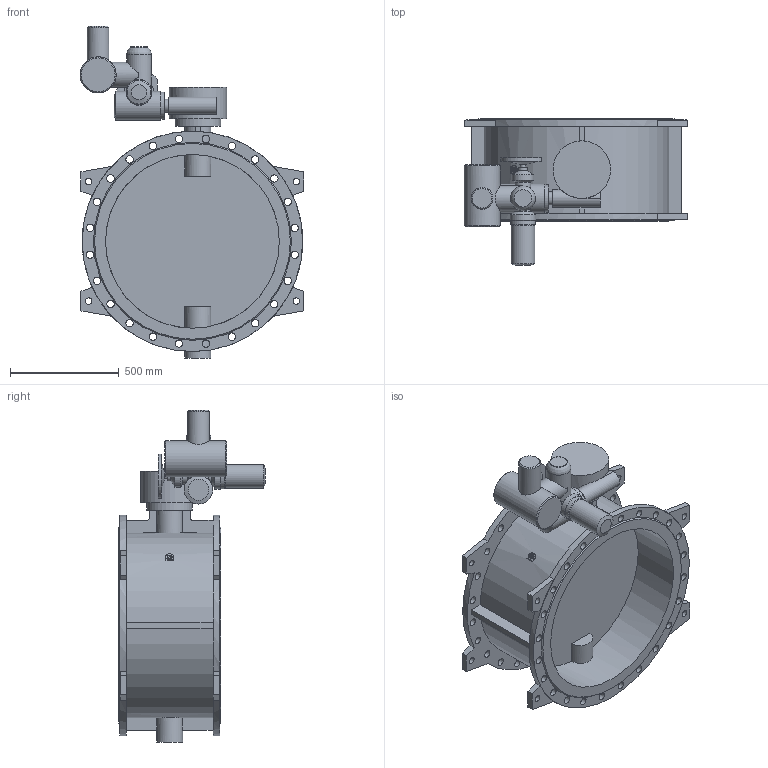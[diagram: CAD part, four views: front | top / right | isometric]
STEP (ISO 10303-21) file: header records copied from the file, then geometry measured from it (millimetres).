
FILE_DESCRIPTION(('STEP AP203'), '1');
FILE_NAME('Çàòâîð 023F.Z DN800 PN10 + ðåäóêòîð + ÌÒ903.À10 ñ ÁÓ', '', ('UNSPECIFIED'), ('UNSPECIFIED'), 'ASCON STEP Converter 1.6', 'ASCON Math Kernel', '');
FILE_SCHEMA(('CONFIG_CONTROL_DESIGN'));
Length unit declared in the file: millimetre
Bounding box: 1030 x 675.5 x 1528 mm (x, y, z)
Volume: 111183682.4 mm3; surface area: 5797937.5 mm2
Topology: 1 solids, 1 shells, 242 faces, 595 edges, 390 vertices
Faces by surface type: cylinder 117, plane 111, cone 13, torus 1
Full cylindrical faces by diameter (mm): 8.5 x4, 12 x4, 18.5 x4, 23 x4, 24 x1, 30 x8, 34 x48, 42 x1, 60 x1, 66 x1, 72 x1, 80 x2, 100 x2, 108 x1, 114 x1, 115 x1, 116 x1, 119 x1, 120 x1, 125 x1, 132 x1, 166 x1, 210 x1, 265 x1, 800 x2, 1015 x2
Entity records: 11186 total; most frequent: CARTESIAN_POINT 3555, DIRECTION 1180, ORIENTED_EDGE 962, EDGE_LOOP 502, AXIS2_PLACEMENT_3D 493, EDGE_CURVE 481, VERTEX_POINT 389, FACE_BOUND 292
